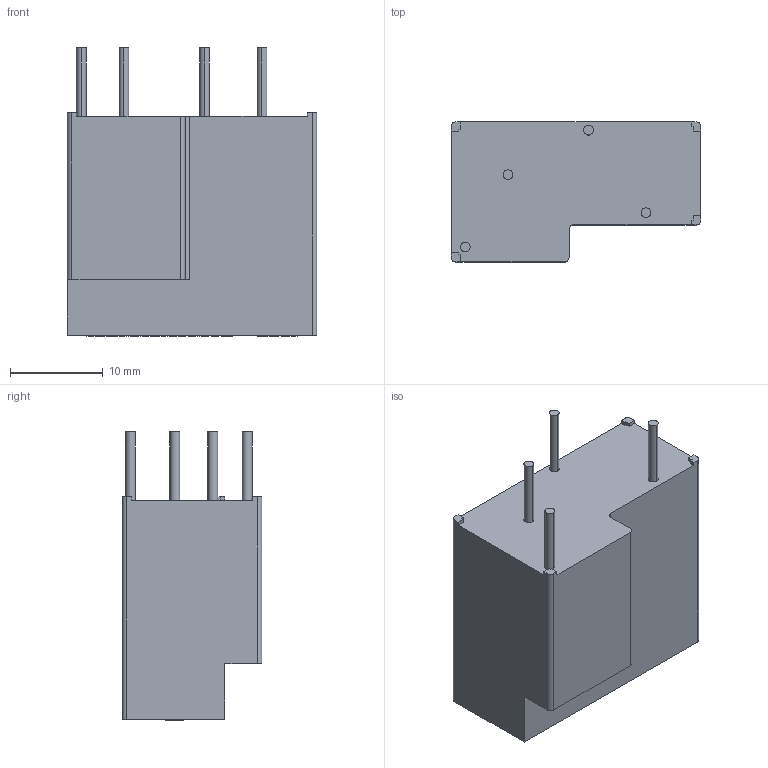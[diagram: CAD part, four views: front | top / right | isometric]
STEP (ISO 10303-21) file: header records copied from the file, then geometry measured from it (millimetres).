
FILE_DESCRIPTION((''),'2;1');
FILE_NAME('780100','2020-07-14T08:56:34',('SET-01224'),(''),'CREO PARAMETRIC BY PTC INC, 2018050','CREO PARAMETRIC BY PTC INC, 2018050','');
FILE_SCHEMA(('CONFIG_CONTROL_DESIGN'));
Length unit declared in the file: millimetre
Products named in the file (1): 780100
Bounding box: 26.9 x 15.1 x 31.1 mm (x, y, z)
Volume: 7964 mm3; surface area: 2722.8 mm2
Topology: 1 solids, 1 shells, 226 faces, 588 edges, 392 vertices
Faces by surface type: plane 175, extrusion 37, cylinder 14
Entity records: 7642 total; most frequent: CARTESIAN_POINT 2162, ORIENTED_EDGE 1176, DIRECTION 955, EDGE_CURVE 588, VECTOR 521, LINE 484, VERTEX_POINT 392, EDGE_LOOP 254
